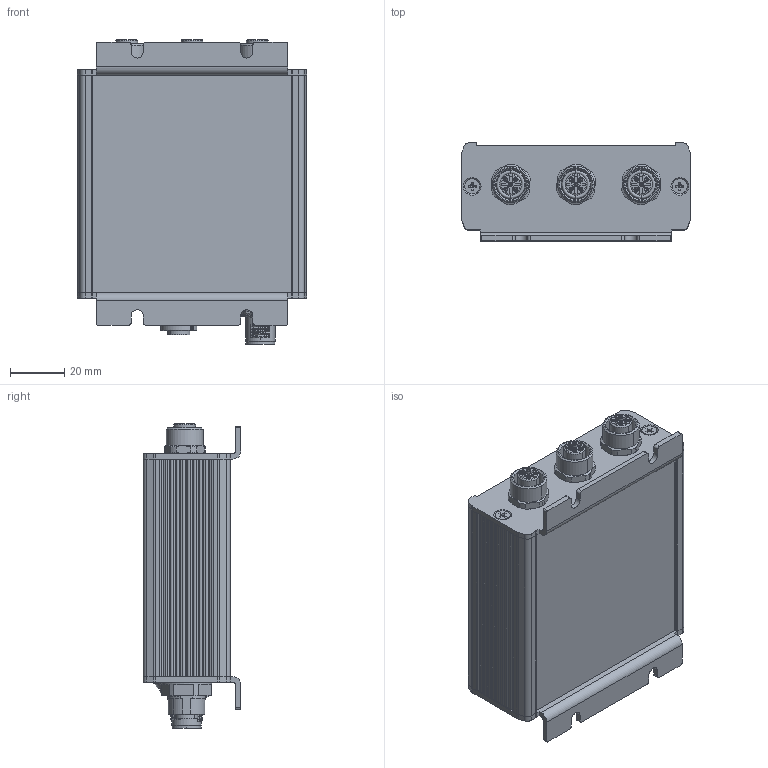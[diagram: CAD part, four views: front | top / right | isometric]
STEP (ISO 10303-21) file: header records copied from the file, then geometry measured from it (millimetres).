
FILE_DESCRIPTION (( 'STEP AP203' ), '1' );
FILE_NAME ('M12.STEP', '2025-09-25T07:28:02', ( '' ), ( '' ), 'SwSTEP 2.0', 'SolidWorks 2024', '' );
FILE_SCHEMA (( 'CONFIG_CONTROL_DESIGN' ));
Length unit declared in the file: millimetre
Products named in the file (29): 629722000214_Pin1_Bottom_mir; 629722000214_Pin1_Top; E-2024-0062-01056_CANbus; 629722000214_Pin4_Bottom; 629722000214_Pin2_Top_mir; 629722000214_Pin2_Top; NT-2025-00393; countersunk flat head cross recess screw_din_DIN EN ISO 7046-1 - M3 x 4 - Z - 4N; NT-2022-00230; E-2024-0062-01017_GSV-6T3 CAN M12; NT-2023-00260; 629722000214_Pin4_Top; NT-2025-00394; 629722000214_Shielding2; E-2024-0062-00140_GSV-6T3 M12; 629722000214_Pin3_Top; 629722000214_Pin1_Top_mir; 629722000214_Pin1_Bottom; 629722000214_Pin3_Bottom_mir; 629722000214_Pin2_Bottom_mir; 629722000214_Pin3_Top_mir; 629722000214_Pin2_Bottom; 629722000214_Shielding; NT-2023-00261; 629722000214_Pin4_Bottom_mir; 629722000214_Pin3_Bottom; NT-2025-00395; 629722000214_Housing; M12
Assembly tree (35 placements, depth 3):
  M12
    E-2024-0062-01017_GSV-6T3 CAN M12
    E-2024-0062-00140_GSV-6T3 M12
    E-2024-0062-01056_CANbus
    NT-2025-00393
      629722000214_Housing
      629722000214_Pin1_Top
      629722000214_Pin4_Bottom
      629722000214_Pin4_Top  x2
      629722000214_Pin1_Bottom
      629722000214_Pin3_Bottom
      629722000214_Pin3_Top
      629722000214_Pin2_Top
      629722000214_Pin2_Bottom
      629722000214_Pin1_Top_mir
      629722000214_Pin1_Bottom_mir
      629722000214_Pin2_Top_mir
      629722000214_Pin2_Bottom_mir
      629722000214_Pin3_Top_mir
      629722000214_Pin3_Bottom_mir
      629722000214_Pin4_Bottom_mir
      629722000214_Shielding2
      629722000214_Shielding
    countersunk flat head cross recess screw_din_DIN EN ISO 7046-1 - M3 x 4 - Z - 4N  x4
    NT-2025-00394
    NT-2023-00260
    NT-2023-00261
    NT-2022-00230  x2
    NT-2025-00395  x3
Bounding box: 84.3 x 36 x 112 mm (x, y, z)
Volume: 60855.7 mm3; surface area: 71240 mm2
Topology: 34 solids, 34 shells, 4090 faces, 10909 edges, 6968 vertices
Faces by surface type: plane 1966, cylinder 1144, bspline 371, cone 348, torus 218, sphere 43
Entity records: 120777 total; most frequent: CARTESIAN_POINT 40204, ORIENTED_EDGE 16844, DIRECTION 15218, EDGE_CURVE 8422, VERTEX_POINT 5461, VECTOR 5120, LINE 5120, AXIS2_PLACEMENT_3D 5049
